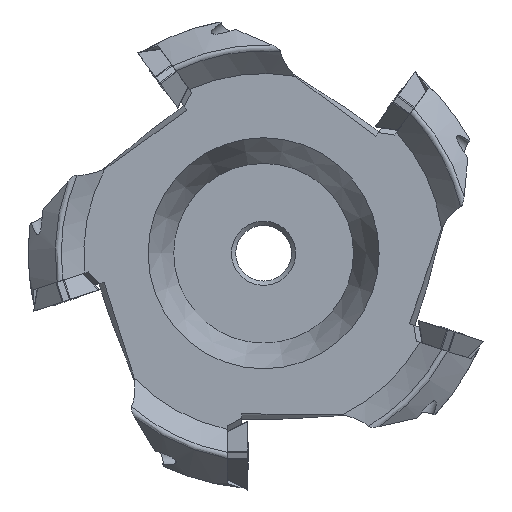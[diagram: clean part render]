
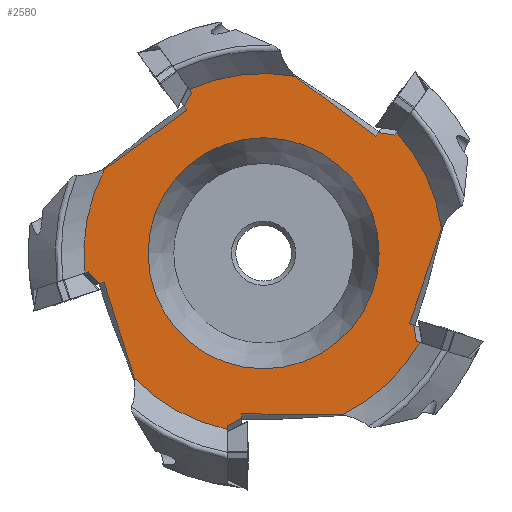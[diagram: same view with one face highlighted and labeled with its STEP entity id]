
A CAD part, left-side view. The second image highlights one B-rep face of the part: STEP entity #2580.
In plain terms, the highlighted planar face has unit normal (-1, 0, 0).
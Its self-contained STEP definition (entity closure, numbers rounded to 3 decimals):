
#78=FACE_BOUND('',#617,.T.);
#191=CIRCLE('',#2857,42.);
#195=CIRCLE('',#2864,42.);
#199=CIRCLE('',#2871,42.);
#203=CIRCLE('',#2878,42.);
#208=CIRCLE('',#2890,42.);
#209=CIRCLE('',#2896,27.);
#210=CIRCLE('',#2897,27.);
#469=FACE_OUTER_BOUND('',#616,.T.);
#616=EDGE_LOOP('',(#1984,#1985,#1986,#1987,#1988,#1989,#1990,#1991,#1992,
#1993,#1994,#1995,#1996,#1997,#1998,#1999,#2000,#2001,#2002,#2003,#2004,
#2005,#2006,#2007,#2008));
#617=EDGE_LOOP('',(#2009,#2010));
#721=ELLIPSE('',#2852,592.353,20.673);
#722=ELLIPSE('',#2892,592.353,20.673);
#723=ELLIPSE('',#2893,592.353,20.673);
#724=ELLIPSE('',#2894,592.353,20.673);
#725=ELLIPSE('',#2895,592.353,20.673);
#746=LINE('',#3892,#867);
#752=LINE('',#3928,#873);
#758=LINE('',#3964,#879);
#764=LINE('',#4000,#885);
#770=LINE('',#4093,#891);
#771=LINE('',#4206,#892);
#772=LINE('',#4319,#893);
#773=LINE('',#4411,#894);
#777=LINE('',#4469,#898);
#780=LINE('',#4510,#901);
#781=LINE('',#4684,#902);
#782=LINE('',#4734,#903);
#783=LINE('',#4781,#904);
#784=LINE('',#4828,#905);
#788=LINE('',#4916,#909);
#867=VECTOR('',#3096,10.);
#873=VECTOR('',#3124,10.);
#879=VECTOR('',#3152,10.);
#885=VECTOR('',#3180,10.);
#891=VECTOR('',#3218,10.);
#892=VECTOR('',#3237,10.);
#893=VECTOR('',#3256,10.);
#894=VECTOR('',#3269,10.);
#898=VECTOR('',#3307,10.);
#901=VECTOR('',#3314,10.);
#902=VECTOR('',#3339,10.);
#903=VECTOR('',#3354,10.);
#904=VECTOR('',#3369,10.);
#905=VECTOR('',#3384,10.);
#909=VECTOR('',#3400,10.);
#988=VERTEX_POINT('',#3890);
#989=VERTEX_POINT('',#3891);
#1000=VERTEX_POINT('',#3926);
#1001=VERTEX_POINT('',#3927);
#1012=VERTEX_POINT('',#3962);
#1013=VERTEX_POINT('',#3963);
#1024=VERTEX_POINT('',#3998);
#1025=VERTEX_POINT('',#3999);
#1040=VERTEX_POINT('',#4091);
#1050=VERTEX_POINT('',#4204);
#1060=VERTEX_POINT('',#4317);
#1068=VERTEX_POINT('',#4409);
#1081=VERTEX_POINT('',#4467);
#1082=VERTEX_POINT('',#4468);
#1085=VERTEX_POINT('',#4508);
#1093=VERTEX_POINT('',#4589);
#1099=VERTEX_POINT('',#4669);
#1100=VERTEX_POINT('',#4673);
#1105=VERTEX_POINT('',#4719);
#1106=VERTEX_POINT('',#4723);
#1111=VERTEX_POINT('',#4766);
#1112=VERTEX_POINT('',#4770);
#1117=VERTEX_POINT('',#4813);
#1118=VERTEX_POINT('',#4817);
#1121=VERTEX_POINT('',#4915);
#1124=VERTEX_POINT('',#4933);
#1125=VERTEX_POINT('',#4934);
#1254=EDGE_CURVE('',#988,#989,#746,.T.);
#1269=EDGE_CURVE('',#1000,#1001,#752,.T.);
#1284=EDGE_CURVE('',#1012,#1013,#758,.T.);
#1299=EDGE_CURVE('',#1024,#1025,#764,.T.);
#1321=EDGE_CURVE('',#989,#1040,#770,.T.);
#1335=EDGE_CURVE('',#1001,#1050,#771,.T.);
#1349=EDGE_CURVE('',#1013,#1060,#772,.T.);
#1360=EDGE_CURVE('',#1025,#1068,#773,.T.);
#1377=EDGE_CURVE('',#1081,#1082,#777,.T.);
#1383=EDGE_CURVE('',#1082,#1085,#780,.T.);
#1394=EDGE_CURVE('',#1085,#1093,#721,.T.);
#1403=EDGE_CURVE('',#1100,#1099,#191,.T.);
#1405=EDGE_CURVE('',#1099,#1081,#781,.T.);
#1413=EDGE_CURVE('',#1106,#1105,#195,.T.);
#1415=EDGE_CURVE('',#1105,#988,#782,.T.);
#1422=EDGE_CURVE('',#1112,#1111,#199,.T.);
#1424=EDGE_CURVE('',#1111,#1012,#783,.T.);
#1431=EDGE_CURVE('',#1118,#1117,#203,.T.);
#1433=EDGE_CURVE('',#1117,#1000,#784,.T.);
#1442=EDGE_CURVE('',#1121,#1024,#788,.T.);
#1447=EDGE_CURVE('',#1093,#1121,#208,.T.);
#1448=EDGE_CURVE('',#1040,#1100,#722,.T.);
#1449=EDGE_CURVE('',#1068,#1112,#723,.T.);
#1450=EDGE_CURVE('',#1060,#1118,#724,.T.);
#1451=EDGE_CURVE('',#1050,#1106,#725,.T.);
#1452=EDGE_CURVE('',#1124,#1125,#209,.T.);
#1453=EDGE_CURVE('',#1125,#1124,#210,.T.);
#1984=ORIENTED_EDGE('',*,*,#1254,.T.);
#1985=ORIENTED_EDGE('',*,*,#1321,.T.);
#1986=ORIENTED_EDGE('',*,*,#1448,.T.);
#1987=ORIENTED_EDGE('',*,*,#1403,.T.);
#1988=ORIENTED_EDGE('',*,*,#1405,.T.);
#1989=ORIENTED_EDGE('',*,*,#1377,.T.);
#1990=ORIENTED_EDGE('',*,*,#1383,.T.);
#1991=ORIENTED_EDGE('',*,*,#1394,.T.);
#1992=ORIENTED_EDGE('',*,*,#1447,.T.);
#1993=ORIENTED_EDGE('',*,*,#1442,.T.);
#1994=ORIENTED_EDGE('',*,*,#1299,.T.);
#1995=ORIENTED_EDGE('',*,*,#1360,.T.);
#1996=ORIENTED_EDGE('',*,*,#1449,.T.);
#1997=ORIENTED_EDGE('',*,*,#1422,.T.);
#1998=ORIENTED_EDGE('',*,*,#1424,.T.);
#1999=ORIENTED_EDGE('',*,*,#1284,.T.);
#2000=ORIENTED_EDGE('',*,*,#1349,.T.);
#2001=ORIENTED_EDGE('',*,*,#1450,.T.);
#2002=ORIENTED_EDGE('',*,*,#1431,.T.);
#2003=ORIENTED_EDGE('',*,*,#1433,.T.);
#2004=ORIENTED_EDGE('',*,*,#1269,.T.);
#2005=ORIENTED_EDGE('',*,*,#1335,.T.);
#2006=ORIENTED_EDGE('',*,*,#1451,.T.);
#2007=ORIENTED_EDGE('',*,*,#1413,.T.);
#2008=ORIENTED_EDGE('',*,*,#1415,.T.);
#2009=ORIENTED_EDGE('',*,*,#1452,.F.);
#2010=ORIENTED_EDGE('',*,*,#1453,.F.);
#2494=PLANE('',#2891);
#2580=ADVANCED_FACE('',(#469,#78),#2494,.T.);
#2852=AXIS2_PLACEMENT_3D('',#4598,#3325,#3326);
#2857=AXIS2_PLACEMENT_3D('',#4674,#3335,#3336);
#2864=AXIS2_PLACEMENT_3D('',#4724,#3350,#3351);
#2871=AXIS2_PLACEMENT_3D('',#4771,#3365,#3366);
#2878=AXIS2_PLACEMENT_3D('',#4818,#3380,#3381);
#2890=AXIS2_PLACEMENT_3D('',#4927,#3410,#3411);
#2891=AXIS2_PLACEMENT_3D('',#4928,#3412,#3413);
#2892=AXIS2_PLACEMENT_3D('',#4929,#3414,#3415);
#2893=AXIS2_PLACEMENT_3D('',#4930,#3416,#3417);
#2894=AXIS2_PLACEMENT_3D('',#4931,#3418,#3419);
#2895=AXIS2_PLACEMENT_3D('',#4932,#3420,#3421);
#2896=AXIS2_PLACEMENT_3D('',#4935,#3422,#3423);
#2897=AXIS2_PLACEMENT_3D('',#4936,#3424,#3425);
#3096=DIRECTION('',(0.,-0.71,-0.704));
#3124=DIRECTION('',(0.,0.45,-0.893));
#3152=DIRECTION('',(0.,0.988,0.152));
#3180=DIRECTION('',(0.,0.161,0.987));
#3218=DIRECTION('',(0.,-0.951,0.309));
#3237=DIRECTION('',(0.,-0.588,-0.809));
#3256=DIRECTION('',(0.,0.588,-0.809));
#3269=DIRECTION('',(0.,0.951,0.309));
#3307=DIRECTION('',(0.,-0.889,0.458));
#3314=DIRECTION('',(0.,0.,1.));
#3325=DIRECTION('center_axis',(1.,0.,0.));
#3326=DIRECTION('ref_axis',(0.,-1.,0.));
#3335=DIRECTION('center_axis',(-1.,0.,0.));
#3336=DIRECTION('ref_axis',(0.,0.,1.));
#3339=DIRECTION('',(0.,0.,1.));
#3350=DIRECTION('center_axis',(-1.,0.,0.));
#3351=DIRECTION('ref_axis',(0.,0.,1.));
#3354=DIRECTION('',(0.,-0.951,0.309));
#3365=DIRECTION('center_axis',(-1.,0.,0.));
#3366=DIRECTION('ref_axis',(0.,0.,1.));
#3369=DIRECTION('',(0.,0.588,-0.809));
#3380=DIRECTION('center_axis',(-1.,0.,0.));
#3381=DIRECTION('ref_axis',(0.,0.,1.));
#3384=DIRECTION('',(0.,-0.588,-0.809));
#3400=DIRECTION('',(0.,0.951,0.309));
#3410=DIRECTION('center_axis',(-1.,0.,0.));
#3411=DIRECTION('ref_axis',(0.,0.,1.));
#3412=DIRECTION('center_axis',(-1.,0.,0.));
#3413=DIRECTION('ref_axis',(0.,0.,1.));
#3414=DIRECTION('center_axis',(1.,0.,0.));
#3415=DIRECTION('ref_axis',(0.,-0.309,-0.951));
#3416=DIRECTION('center_axis',(1.,0.,0.));
#3417=DIRECTION('ref_axis',(0.,-0.309,0.951));
#3418=DIRECTION('center_axis',(1.,0.,0.));
#3419=DIRECTION('ref_axis',(0.,0.809,0.588));
#3420=DIRECTION('center_axis',(1.,0.,0.));
#3421=DIRECTION('ref_axis',(0.,0.809,-0.588));
#3422=DIRECTION('center_axis',(-1.,0.,0.));
#3423=DIRECTION('ref_axis',(0.,0.,1.));
#3424=DIRECTION('center_axis',(-1.,0.,0.));
#3425=DIRECTION('ref_axis',(0.,0.,1.));
#3890=CARTESIAN_POINT('',(6.,40.967,-4.373));
#3891=CARTESIAN_POINT('',(6.,38.26,-7.057));
#3892=CARTESIAN_POINT('',(6.,24.854,-20.344));
#3926=CARTESIAN_POINT('',(6.,16.819,37.61));
#3927=CARTESIAN_POINT('',(6.,18.534,34.206));
#3928=CARTESIAN_POINT('',(6.,19.979,31.339));
#3962=CARTESIAN_POINT('',(6.,-30.572,27.618));
#3963=CARTESIAN_POINT('',(6.,-26.805,28.197));
#3964=CARTESIAN_POINT('',(6.,-30.813,27.581));
#3998=CARTESIAN_POINT('',(6.,-35.713,-20.541));
#3999=CARTESIAN_POINT('',(6.,-35.1,-16.779));
#4000=CARTESIAN_POINT('',(6.,-33.956,-9.755));
#4091=CARTESIAN_POINT('',(6.,37.256,-6.731));
#4093=CARTESIAN_POINT('',(6.,15.235,0.424));
#4204=CARTESIAN_POINT('',(6.,17.914,33.353));
#4206=CARTESIAN_POINT('',(6.,7.187,18.588));
#4317=CARTESIAN_POINT('',(6.,-26.185,27.344));
#4319=CARTESIAN_POINT('',(6.,-24.786,25.418));
#4409=CARTESIAN_POINT('',(6.,-34.097,-16.453));
#4411=CARTESIAN_POINT('',(6.,-36.498,-17.233));
#4467=CARTESIAN_POINT('',(6.,8.5,-40.313));
#4468=CARTESIAN_POINT('',(6.,5.112,-38.568));
#4469=CARTESIAN_POINT('',(6.,-13.814,-28.819));
#4508=CARTESIAN_POINT('',(6.,5.112,-37.512));
#4510=CARTESIAN_POINT('',(6.,5.112,-27.198));
#4589=CARTESIAN_POINT('',(6.,-18.407,-37.751));
#4598=CARTESIAN_POINT('Origin',(6.,159.008,-57.475));
#4669=CARTESIAN_POINT('',(6.,8.5,-41.131));
#4673=CARTESIAN_POINT('',(6.,30.216,-29.172));
#4674=CARTESIAN_POINT('Origin',(6.,0.,0.));
#4684=CARTESIAN_POINT('',(6.,8.5,-23.896));
#4719=CARTESIAN_POINT('',(6.,41.744,-4.626));
#4723=CARTESIAN_POINT('',(6.,37.082,19.722));
#4724=CARTESIAN_POINT('Origin',(6.,0.,0.));
#4734=CARTESIAN_POINT('',(6.,13.142,4.667));
#4766=CARTESIAN_POINT('',(6.,-31.053,28.279));
#4770=CARTESIAN_POINT('',(6.,-41.592,5.841));
#4771=CARTESIAN_POINT('Origin',(6.,0.,0.));
#4781=CARTESIAN_POINT('',(6.,-25.586,20.756));
#4813=CARTESIAN_POINT('',(6.,17.299,38.272));
#4817=CARTESIAN_POINT('',(6.,-7.298,41.361));
#4818=CARTESIAN_POINT('Origin',(6.,0.,0.));
#4828=CARTESIAN_POINT('',(6.,2.505,17.909));
#4915=CARTESIAN_POINT('',(6.,-36.491,-20.794));
#4916=CARTESIAN_POINT('',(6.,-32.311,-19.436));
#4927=CARTESIAN_POINT('Origin',(6.,0.,0.));
#4928=CARTESIAN_POINT('Origin',(6.,-27.,0.));
#4929=CARTESIAN_POINT('Origin',(6.,103.798,133.465));
#4930=CARTESIAN_POINT('Origin',(6.,-5.526,-168.987));
#4931=CARTESIAN_POINT('Origin',(6.,-162.423,-46.964));
#4932=CARTESIAN_POINT('Origin',(6.,-94.857,139.961));
#4933=CARTESIAN_POINT('',(6.,-27.,0.));
#4934=CARTESIAN_POINT('',(6.,27.,0.));
#4935=CARTESIAN_POINT('Origin',(6.,0.,0.));
#4936=CARTESIAN_POINT('Origin',(6.,0.,0.));
